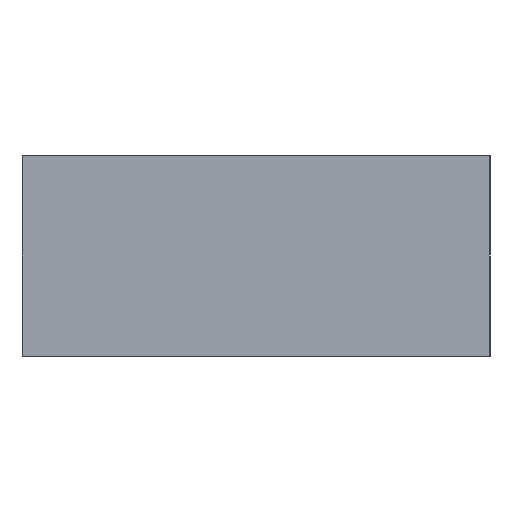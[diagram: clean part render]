
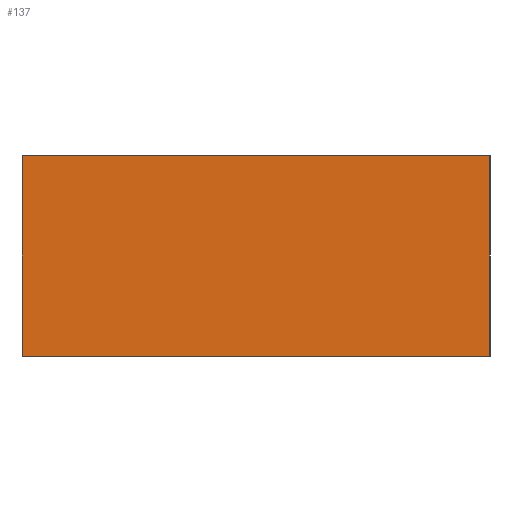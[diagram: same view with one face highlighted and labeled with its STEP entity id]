
A CAD part, left-side view. The second image highlights one B-rep face of the part: STEP entity #137.
In plain terms, the highlighted planar face has unit normal (-1, 0, 0).
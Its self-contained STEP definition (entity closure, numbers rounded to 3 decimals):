
#32 = PLANE('',#33);
#33 = AXIS2_PLACEMENT_3D('',#34,#35,#36);
#34 = CARTESIAN_POINT('',(108.8,-3.5,12.));
#35 = DIRECTION('',(0.,-1.,0.));
#36 = DIRECTION('',(-1.,0.,0.));
#57 = VERTEX_POINT('',#58);
#58 = CARTESIAN_POINT('',(50.,-3.5,15.));
#72 = PLANE('',#73);
#73 = AXIS2_PLACEMENT_3D('',#74,#75,#76);
#74 = CARTESIAN_POINT('',(79.4,0.,15.));
#75 = DIRECTION('',(-0.,-0.,-1.));
#76 = DIRECTION('',(-1.,0.,0.));
#84 = EDGE_CURVE('',#85,#57,#87,.T.);
#85 = VERTEX_POINT('',#86);
#86 = CARTESIAN_POINT('',(50.,-3.5,12.));
#87 = SURFACE_CURVE('',#88,(#92,#99),.PCURVE_S1.);
#88 = LINE('',#89,#90);
#89 = CARTESIAN_POINT('',(50.,-3.5,12.));
#90 = VECTOR('',#91,1.);
#91 = DIRECTION('',(0.,0.,1.));
#92 = PCURVE('',#32,#93);
#93 = DEFINITIONAL_REPRESENTATION('',(#94),#98);
#94 = LINE('',#95,#96);
#95 = CARTESIAN_POINT('',(58.8,0.));
#96 = VECTOR('',#97,1.);
#97 = DIRECTION('',(0.,-1.));
#98 = ( GEOMETRIC_REPRESENTATION_CONTEXT(2) 
PARAMETRIC_REPRESENTATION_CONTEXT() REPRESENTATION_CONTEXT('2D SPACE',''
  ) );
#99 = PCURVE('',#100,#105);
#100 = PLANE('',#101);
#101 = AXIS2_PLACEMENT_3D('',#102,#103,#104);
#102 = CARTESIAN_POINT('',(50.,-3.5,12.));
#103 = DIRECTION('',(-1.,0.,0.));
#104 = DIRECTION('',(0.,1.,0.));
#105 = DEFINITIONAL_REPRESENTATION('',(#106),#110);
#106 = LINE('',#107,#108);
#107 = CARTESIAN_POINT('',(0.,0.));
#108 = VECTOR('',#109,1.);
#109 = DIRECTION('',(0.,-1.));
#110 = ( GEOMETRIC_REPRESENTATION_CONTEXT(2) 
PARAMETRIC_REPRESENTATION_CONTEXT() REPRESENTATION_CONTEXT('2D SPACE',''
  ) );
#126 = PLANE('',#127);
#127 = AXIS2_PLACEMENT_3D('',#128,#129,#130);
#128 = CARTESIAN_POINT('',(79.4,0.,12.));
#129 = DIRECTION('',(-0.,-0.,-1.));
#130 = DIRECTION('',(-1.,0.,0.));
#137 = ADVANCED_FACE('',(#138),#100,.T.);
#138 = FACE_BOUND('',#139,.T.);
#139 = EDGE_LOOP('',(#140,#141,#164,#192));
#140 = ORIENTED_EDGE('',*,*,#84,.T.);
#141 = ORIENTED_EDGE('',*,*,#142,.T.);
#142 = EDGE_CURVE('',#57,#143,#145,.T.);
#143 = VERTEX_POINT('',#144);
#144 = CARTESIAN_POINT('',(50.,3.5,15.));
#145 = SURFACE_CURVE('',#146,(#150,#157),.PCURVE_S1.);
#146 = LINE('',#147,#148);
#147 = CARTESIAN_POINT('',(50.,-3.5,15.));
#148 = VECTOR('',#149,1.);
#149 = DIRECTION('',(0.,1.,0.));
#150 = PCURVE('',#100,#151);
#151 = DEFINITIONAL_REPRESENTATION('',(#152),#156);
#152 = LINE('',#153,#154);
#153 = CARTESIAN_POINT('',(0.,-3.));
#154 = VECTOR('',#155,1.);
#155 = DIRECTION('',(1.,0.));
#156 = ( GEOMETRIC_REPRESENTATION_CONTEXT(2) 
PARAMETRIC_REPRESENTATION_CONTEXT() REPRESENTATION_CONTEXT('2D SPACE',''
  ) );
#157 = PCURVE('',#72,#158);
#158 = DEFINITIONAL_REPRESENTATION('',(#159),#163);
#159 = LINE('',#160,#161);
#160 = CARTESIAN_POINT('',(29.4,-3.5));
#161 = VECTOR('',#162,1.);
#162 = DIRECTION('',(0.,1.));
#163 = ( GEOMETRIC_REPRESENTATION_CONTEXT(2) 
PARAMETRIC_REPRESENTATION_CONTEXT() REPRESENTATION_CONTEXT('2D SPACE',''
  ) );
#164 = ORIENTED_EDGE('',*,*,#165,.F.);
#165 = EDGE_CURVE('',#166,#143,#168,.T.);
#166 = VERTEX_POINT('',#167);
#167 = CARTESIAN_POINT('',(50.,3.5,12.));
#168 = SURFACE_CURVE('',#169,(#173,#180),.PCURVE_S1.);
#169 = LINE('',#170,#171);
#170 = CARTESIAN_POINT('',(50.,3.5,12.));
#171 = VECTOR('',#172,1.);
#172 = DIRECTION('',(0.,0.,1.));
#173 = PCURVE('',#100,#174);
#174 = DEFINITIONAL_REPRESENTATION('',(#175),#179);
#175 = LINE('',#176,#177);
#176 = CARTESIAN_POINT('',(7.,0.));
#177 = VECTOR('',#178,1.);
#178 = DIRECTION('',(0.,-1.));
#179 = ( GEOMETRIC_REPRESENTATION_CONTEXT(2) 
PARAMETRIC_REPRESENTATION_CONTEXT() REPRESENTATION_CONTEXT('2D SPACE',''
  ) );
#180 = PCURVE('',#181,#186);
#181 = PLANE('',#182);
#182 = AXIS2_PLACEMENT_3D('',#183,#184,#185);
#183 = CARTESIAN_POINT('',(50.,3.5,12.));
#184 = DIRECTION('',(0.,1.,0.));
#185 = DIRECTION('',(1.,0.,0.));
#186 = DEFINITIONAL_REPRESENTATION('',(#187),#191);
#187 = LINE('',#188,#189);
#188 = CARTESIAN_POINT('',(0.,0.));
#189 = VECTOR('',#190,1.);
#190 = DIRECTION('',(0.,-1.));
#191 = ( GEOMETRIC_REPRESENTATION_CONTEXT(2) 
PARAMETRIC_REPRESENTATION_CONTEXT() REPRESENTATION_CONTEXT('2D SPACE',''
  ) );
#192 = ORIENTED_EDGE('',*,*,#193,.F.);
#193 = EDGE_CURVE('',#85,#166,#194,.T.);
#194 = SURFACE_CURVE('',#195,(#199,#206),.PCURVE_S1.);
#195 = LINE('',#196,#197);
#196 = CARTESIAN_POINT('',(50.,-3.5,12.));
#197 = VECTOR('',#198,1.);
#198 = DIRECTION('',(0.,1.,0.));
#199 = PCURVE('',#100,#200);
#200 = DEFINITIONAL_REPRESENTATION('',(#201),#205);
#201 = LINE('',#202,#203);
#202 = CARTESIAN_POINT('',(0.,0.));
#203 = VECTOR('',#204,1.);
#204 = DIRECTION('',(1.,0.));
#205 = ( GEOMETRIC_REPRESENTATION_CONTEXT(2) 
PARAMETRIC_REPRESENTATION_CONTEXT() REPRESENTATION_CONTEXT('2D SPACE',''
  ) );
#206 = PCURVE('',#126,#207);
#207 = DEFINITIONAL_REPRESENTATION('',(#208),#212);
#208 = LINE('',#209,#210);
#209 = CARTESIAN_POINT('',(29.4,-3.5));
#210 = VECTOR('',#211,1.);
#211 = DIRECTION('',(0.,1.));
#212 = ( GEOMETRIC_REPRESENTATION_CONTEXT(2) 
PARAMETRIC_REPRESENTATION_CONTEXT() REPRESENTATION_CONTEXT('2D SPACE',''
  ) );
